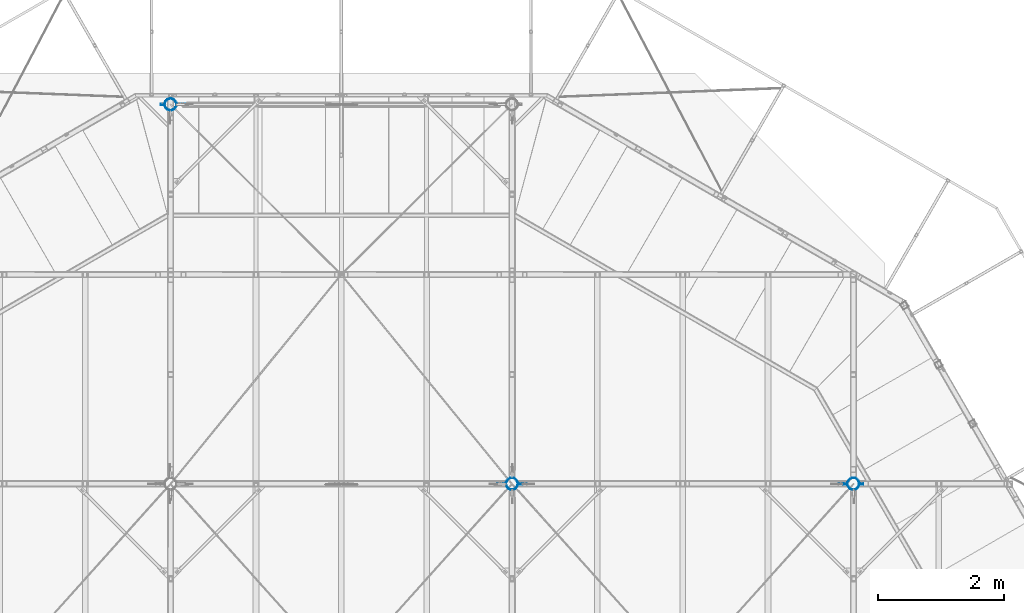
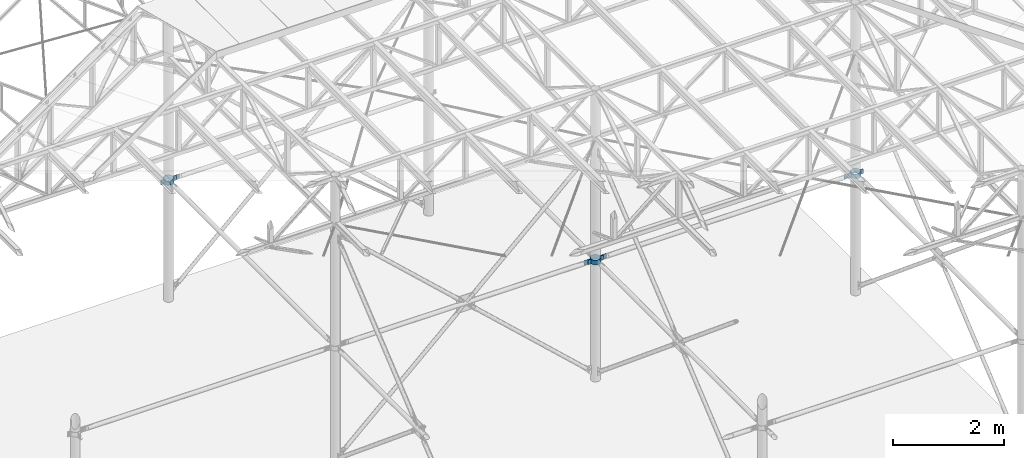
# One storey, part 130 of 132: 6 beams, 6 elements without a shape of their own.
"""IFC2X3 building model written with IfcOpenShell, lengths in millimetres."""

import ifcopenshell
import ifcopenshell.guid

model = None  # the IFC model being written
_history = None  # IfcOwnerHistory: only IFC2X3 demands one
_inside = {}  # id of a spatial element -> (the spatial element, [elements in it])
_under = {}  # id of a project, library or spatial element -> (it, [spatial elements below it])
_declared = {}  # id of a project -> (the project, [libraries it declares])
_typed = {}  # id of a type object -> (the type object, [elements of that type])
_made_of = {}  # id of a material, layer set ... -> (it, [elements and type objects made of it])


def new_model(schema):
    """Start an empty IFC model of exactly this schema.

    Asked for "IFC4X3", IfcOpenShell would pick the latest addendum, in which some entities
    have other attributes; the version numbers below select the first issue.
    IFC2X3 requires an IfcOwnerHistory on every rooted entity: one is made here for all.
    """
    global model, _history
    if schema == "IFC4X3":
        model = ifcopenshell.file(schema_version=(4, 3, 0, 0))
    else:
        model = ifcopenshell.file(schema=schema)
    _inside.clear()
    _under.clear()
    _declared.clear()
    _typed.clear()
    _made_of.clear()
    _history = None
    if model.schema == "IFC2X3":
        org = make("IfcOrganization", Name="unknown")
        user = make(
            "IfcPersonAndOrganization",
            ThePerson=make("IfcPerson", FamilyName="unknown"),
            TheOrganization=org,
        )
        app = make(
            "IfcApplication",
            ApplicationDeveloper=org,
            Version="unknown",
            ApplicationFullName="unknown",
            ApplicationIdentifier="unknown",
        )
        _history = make(
            "IfcOwnerHistory",
            OwningUser=user,
            OwningApplication=app,
            ChangeAction="ADDED",
            CreationDate=0,
        )
    return model


def make(cls, **values):
    """One entity of the class cls with the attributes given. An attribute that is None is left unset."""
    return model.create_entity(
        cls, **{name: value for name, value in values.items() if value is not None}
    )


def rooted(cls, **values):
    """An entity with a GlobalId (a new one), such as an element, a storey or a relation."""
    return make(cls, GlobalId=ifcopenshell.guid.new(), OwnerHistory=_history, **values)


def si_unit(unit_type, name, prefix=None):
    """IfcSIUnit, for example si_unit("LENGTHUNIT", "METRE", prefix="MILLI")."""
    return make("IfcSIUnit", UnitType=unit_type, Prefix=prefix, Name=name)


def assignment(units):
    """IfcUnitAssignment: the units of a project."""
    return None if units is None else make("IfcUnitAssignment", Units=units)


def point(xyz):
    """IfcCartesianPoint."""
    return None if xyz is None else make("IfcCartesianPoint", Coordinates=xyz)


def direction(xyz):
    """IfcDirection."""
    return None if xyz is None else make("IfcDirection", DirectionRatios=xyz)


def frame(location, z_axis=None, x_axis=None):
    """IfcAxis2Placement3D, a coordinate frame: its origin and axes. An axis left out is left unset."""
    return make(
        "IfcAxis2Placement3D",
        Location=point(location),
        Axis=direction(z_axis),
        RefDirection=direction(x_axis),
    )


def origin_with_axes():
    """The frame at (0, 0, 0) with the z axis (0, 0, 1) and the x axis (1, 0, 0) written out."""
    return frame((0.0, 0.0, 0.0), z_axis=(0.0, 0.0, 1.0), x_axis=(1.0, 0.0, 0.0))


def place(relative_to, where):
    """IfcLocalPlacement: puts the frame where relative to a parent placement (None: the world)."""
    return make(
        "IfcLocalPlacement", PlacementRelTo=relative_to, RelativePlacement=where
    )


def context(
    kind, dimensions, precision=None, world=None, true_north=None, identifier=None
):
    """IfcGeometricRepresentationContext, for example the 3D "Model" context."""
    return make(
        "IfcGeometricRepresentationContext",
        ContextIdentifier=identifier,
        ContextType=kind,
        CoordinateSpaceDimension=dimensions,
        Precision=precision,
        WorldCoordinateSystem=world,
        TrueNorth=true_north,
    )


def subcontext(parent, identifier, kind, view, scale=None):
    """IfcGeometricRepresentationSubContext, for example "Body" below "Model"."""
    return make(
        "IfcGeometricRepresentationSubContext",
        ContextIdentifier=identifier,
        ContextType=kind,
        ParentContext=parent,
        TargetScale=scale,
        TargetView=view,
    )


def project(units=None, contexts=None):
    """IfcProject with its units and contexts."""
    return rooted(
        "IfcProject",
        Name="project",
        RepresentationContexts=contexts,
        UnitsInContext=assignment(units),
    )


def spatial(cls, under=None, at=None, **own):
    """A site, building, storey or space (cls), placed at a placement, below another one or the project."""
    s = rooted(cls, ObjectPlacement=at, **own)
    if under is not None:
        _under.setdefault(under.id(), (under, []))[1].append(s)
    return s


def faces_of(points, faces, orient=None, outer=None):
    """IfcFace entities. A face is a list of loops; a loop is a list of indices into points, from 0.

    orient and outer hold one flag for each loop. By default every Orientation is true, the
    first loop of a face is its IfcFaceOuterBound and the others are IfcFaceBound.
    """
    made = []
    for i, loops in enumerate(faces):
        bounds = []
        for j, loop in enumerate(loops):
            is_outer = j == 0 if outer is None else outer[i][j]
            bounds.append(
                make(
                    "IfcFaceOuterBound" if is_outer else "IfcFaceBound",
                    Bound=make("IfcPolyLoop", Polygon=[points[k] for k in loop]),
                    Orientation=True if orient is None else orient[i][j],
                )
            )
        made.append(make("IfcFace", Bounds=bounds))
    return made


def faceted_brep(points, faces, orient=None, outer=None, voids=None):
    """IfcFacetedBrep: a solid bounded by flat faces; with voids (closed shells), ...WithVoids."""
    shared = [point(p) for p in points]
    hull = make("IfcClosedShell", CfsFaces=faces_of(shared, faces, orient, outer))
    if voids is None:
        return make("IfcFacetedBrep", Outer=hull)
    return make(
        "IfcFacetedBrepWithVoids",
        Outer=hull,
        Voids=[
            make(cls, CfsFaces=faces_of(shared, fs, o, b)) for cls, fs, o, b in voids
        ],
    )


def shape(context_of_items, identifier, shape_type, items):
    """IfcShapeRepresentation: the items that make up one representation, for example the "Body"."""
    return make(
        "IfcShapeRepresentation",
        ContextOfItems=context_of_items,
        RepresentationIdentifier=identifier,
        RepresentationType=shape_type,
        Items=items,
    )


def material(Name=None, Category=None):
    """IfcMaterial."""
    return make("IfcMaterial", Name=Name, Category=Category)


def made_of(thing, what):
    """Note that an element or type object is made of a material, layer set ...; save() writes the relation."""
    if what is not None:
        _made_of.setdefault(what.id(), (what, []))[1].append(thing)
    return thing


def type_object(cls, material=None, **own):
    """A type object (cls), such as IfcWallType, which elements share."""
    return made_of(rooted(cls, **own), material)


def element(
    cls,
    number,
    at=None,
    inside=None,
    cuts=None,
    type_object=None,
    material=None,
    context=None,
    identifier="Body",
    shape_type=None,
    held_by="IfcProductDefinitionShape",
    body=None,
    shapes=None,
    **own,
):
    """One element of the class cls, such as IfcWall. Its Tag is "e" and its number.

    at: its placement. inside: the storey or other place that contains it. cuts: it is an
    opening in that element (IfcRelVoidsElement). A single representation is given by context,
    identifier, shape_type and body (its items); several are given by shapes. held_by: the class
    of the entity that holds the representations. save() writes the other relations.
    """
    e = rooted(cls, Tag="e%d" % number, ObjectPlacement=at, **own)
    if body is not None:
        shapes = [shape(context, identifier, shape_type, body)]
    if shapes is not None:
        e.Representation = make(held_by, Representations=shapes)
    if inside is not None:
        _inside.setdefault(inside.id(), (inside, []))[1].append(e)
    if cuts is not None:
        rooted(
            "IfcRelVoidsElement", RelatingBuildingElement=cuts, RelatedOpeningElement=e
        )
    if type_object is not None:
        _typed.setdefault(type_object.id(), (type_object, []))[1].append(e)
    return made_of(e, material)


def aggregate(whole, parts):
    """IfcRelAggregates: a whole, such as a stair, and the parts it consists of."""
    return rooted("IfcRelAggregates", RelatingObject=whole, RelatedObjects=parts)


def save(model, path):
    """Write the relations noted so far, then the file.

    IfcRelAggregates (storeys below a building ...), IfcRelContainedInSpatialStructure (elements
    in a storey), IfcRelDefinesByType, IfcRelAssociatesMaterial and IfcRelDeclares: one each for
    every whole, place, type object, material and project.
    """
    for whole, parts in _under.values():
        aggregate(whole, parts)
    for where, things in _inside.values():
        rooted(
            "IfcRelContainedInSpatialStructure",
            RelatedElements=things,
            RelatingStructure=where,
        )
    for kind, things in _typed.values():
        rooted("IfcRelDefinesByType", RelatedObjects=things, RelatingType=kind)
    for what, things in _made_of.values():
        rooted("IfcRelAssociatesMaterial", RelatedObjects=things, RelatingMaterial=what)
    for by, libraries in _declared.values():
        rooted("IfcRelDeclares", RelatingContext=by, RelatedDefinitions=libraries)
    model.write(path)


model = new_model("IFC2X3")

# Units and contexts
model_context = context("Model", 3, precision=1e-05, world=origin_with_axes())
body_context = subcontext(model_context, "Body", "Model", "MODEL_VIEW")
ifc_project = project(units=[si_unit("LENGTHUNIT", "METRE", prefix="MILLI"), si_unit("AREAUNIT", "SQUARE_METRE"), si_unit("VOLUMEUNIT", "CUBIC_METRE"), si_unit("MASSUNIT", "GRAM", prefix="KILO"), si_unit("TIMEUNIT", "SECOND"), si_unit("PLANEANGLEUNIT", "RADIAN"), si_unit("SOLIDANGLEUNIT", "STERADIAN"), si_unit("THERMODYNAMICTEMPERATUREUNIT", "DEGREE_CELSIUS"), si_unit("LUMINOUSINTENSITYUNIT", "LUMEN")], contexts=[model_context])

# Site, building, storey
site_placement = place(None, origin_with_axes())
site = spatial("IfcSite", under=ifc_project, at=site_placement, Name="Budowa", CompositionType="ELEMENT")
building_placement = place(site_placement, origin_with_axes())
building = spatial("IfcBuilding", under=site, at=building_placement, Name="Undefined", CompositionType="ELEMENT")
storey_placement = place(building_placement, origin_with_axes())
storey = spatial("IfcBuildingStorey", under=building, at=storey_placement, Name="Undefined", CompositionType="ELEMENT", Elevation=0.0)

# Assembly, beam
assembly_1_placement = place(storey_placement, origin_with_axes())
assembly_1 = element("IfcElementAssembly", 1, at=assembly_1_placement, inside=storey, Name="Steel Assembly", AssemblyPlace="NOTDEFINED", PredefinedType="RIGID_FRAME")
ifc_material = material(Name="STEEL/S235JR")
beam_type = type_object("IfcBeamType", Name="BL8*100", PredefinedType="NOTDEFINED")
beam_1_placement = place(assembly_1_placement, frame((9658.13669408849, 24006.00000016, 10116.0003779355), z_axis=(0.0, 0.0, 1.0), x_axis=(-1.0, 0.0, 0.0)))
beam_1 = element("IfcBeam", 2, at=beam_1_placement, type_object=beam_type, material=ifc_material, Name="BEAM", ObjectType="BL8*100", context=body_context, shape_type="Brep", body=[
    faceted_brep([(0.0, 4.0, -50.0), (0.0, 4.0, 50.0), (129.968378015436, 4.0, 50.0), (129.968378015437, 4.00000000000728, -50.0), (0.0, -4.0, 50.0), (0.0, -4.0, -50.0), (129.968378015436, -4.0, -50.0), (129.968378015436, -4.0, 50.0), (137.356355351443, 2.19217357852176, 50.0), (137.356355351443, 2.19217357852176, -50.0), (133.662366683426, -4.90391321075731, -50.0), (133.662366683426, -4.90391321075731, 50.0), (136.521594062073, -7.41138806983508, -50.0), (136.521594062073, -7.41138806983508, 50.0), (143.074810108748, -2.8227761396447, 50.0), (143.074810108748, -2.8227761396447, -50.0), (137.89993680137, -10.955789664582, -50.0), (137.89993680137, -10.955789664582, 50.0), (145.831495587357, -9.91157932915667, 50.0), (145.831495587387, -9.91157932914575, -50.0), (146.782928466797, -17.1384239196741, 50.0), (146.782928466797, -17.1384239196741, -50.0), (138.988842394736, -19.2268423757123, -50.0), (138.988842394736, -19.2268423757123, 50.0), (155.714019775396, -38.7000007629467, 50.0), (155.714019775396, -38.7000007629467, -50.0), (148.726032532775, -42.7345153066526, -50.0), (148.726032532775, -42.7345153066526, 50.0), (169.921340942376, -57.2153472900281, 50.0), (169.921340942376, -57.2153472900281, -50.0), (164.215673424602, -62.9210138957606, -50.0), (164.215673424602, -62.9210138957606, 50.0), (188.436691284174, -71.4226760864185, 50.0), (188.436691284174, -71.4226760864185, -50.0), (184.402176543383, -78.4106633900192, -50.0), (184.402176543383, -78.4106633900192, 50.0), (209.998275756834, -80.3537673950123, 50.0), (209.998275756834, -80.3537673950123, -50.0), (207.909857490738, -88.1478534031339, -50.0), (207.909857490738, -88.1478534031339, 50.0), (233.136688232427, -83.4000015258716, 50.0), (233.136688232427, -83.4000015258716, -50.0), (233.136687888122, -91.4690333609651, -50.0), (233.136687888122, -91.4690333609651, 50.0), (256.275115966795, -80.3537673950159, 50.0), (256.275115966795, -80.3537673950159, -50.0), (258.363533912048, -88.1478535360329, -50.0), (258.363533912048, -88.1478535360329, 50.0), (277.836700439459, -71.4226760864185, 50.0), (277.836700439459, -71.4226760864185, -50.0), (281.87121518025, -78.4106633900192, -50.0), (281.87121518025, -78.4106633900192, 50.0), (296.352050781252, -57.2153472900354, 50.0), (296.352050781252, -57.2153472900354, -50.0), (302.057719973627, -62.9210126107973, -50.0), (302.057719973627, -62.9210126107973, 50.0), (310.559356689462, -38.7000007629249, 50.0), (310.559356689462, -38.7000007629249, -50.0), (317.5473417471, -42.7345172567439, -50.0), (317.5473417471, -42.7345172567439, 50.0), (319.490478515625, -17.138423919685, 50.0), (319.490478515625, -17.138423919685, -50.0), (327.284563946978, -19.2268472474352, -50.0), (327.284563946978, -19.2268472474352, 50.0), (320.4419114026, -9.91157923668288, 50.0), (320.441911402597, -9.91157923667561, -50.0), (328.37347018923, -10.9557895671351, -50.0), (328.37347018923, -10.9557895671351, 50.0), (323.198596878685, -2.82277604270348, 50.0), (323.198596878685, -2.82277604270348, -50.0), (329.75181292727, -7.41138797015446, -50.0), (329.75181292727, -7.41138797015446, 50.0), (332.611040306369, -4.90391310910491, -50.0), (332.611040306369, -4.90391310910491, 50.0), (328.917051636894, 2.19217367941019, 50.0), (328.917051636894, 2.19217367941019, -50.0), (336.305028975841, -3.99999989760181, -50.0), (336.305028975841, -3.99999989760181, 50.0), (336.30502897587, 4.00000010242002, 50.0), (336.305028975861, 4.0000001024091, -50.0), (391.273406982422, 4.0000001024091, 50.0), (391.273406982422, 4.0000001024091, -50.0), (391.273406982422, -3.9999998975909, 50.0), (391.273406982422, -3.9999998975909, -50.0)], [[[0, 1, 2, 3]], [[4, 5, 6, 7]], [[5, 4, 1, 0]], [[3, 2, 8, 9]], [[7, 6, 10, 11]], [[10, 12, 13, 11]], [[8, 14, 15, 9]], [[12, 16, 17, 13]], [[14, 18, 19, 15]], [[19, 18, 20, 21]], [[17, 16, 22, 23]], [[21, 20, 24, 25]], [[23, 22, 26, 27]], [[25, 24, 28, 29]], [[27, 26, 30, 31]], [[29, 28, 32, 33]], [[31, 30, 34, 35]], [[33, 32, 36, 37]], [[35, 34, 38, 39]], [[37, 36, 40, 41]], [[39, 38, 42, 43]], [[41, 40, 44, 45]], [[43, 42, 46, 47]], [[45, 44, 48, 49]], [[47, 46, 50, 51]], [[49, 48, 52, 53]], [[51, 50, 54, 55]], [[53, 52, 56, 57]], [[55, 54, 58, 59]], [[57, 56, 60, 61]], [[59, 58, 62, 63]], [[61, 60, 64, 65]], [[63, 62, 66, 67]], [[65, 64, 68, 69]], [[67, 66, 70, 71]], [[70, 72, 73, 71]], [[68, 74, 75, 69]], [[72, 76, 77, 73]], [[74, 78, 79, 75]], [[79, 78, 80, 81]], [[78, 74, 68, 64, 60, 56, 52, 48, 44, 40, 36, 32, 28, 24, 20, 18, 14, 8, 2, 1, 4, 7, 11, 13, 17, 23, 27, 31, 35, 39, 43, 47, 51, 55, 59, 63, 67, 71, 73, 77, 82, 80]], [[77, 76, 83, 82]], [[76, 72, 70, 66, 62, 58, 54, 50, 46, 42, 38, 34, 30, 26, 22, 16, 12, 10, 6, 5, 0, 3, 9, 15, 19, 21, 25, 29, 33, 37, 41, 45, 49, 53, 57, 61, 65, 69, 75, 79, 81, 83]], [[82, 83, 81, 80]]]),
])
aggregate(assembly_1, [beam_1])

assembly_2_placement = place(storey_placement, origin_with_axes())
assembly_2 = element("IfcElementAssembly", 3, at=assembly_2_placement, inside=storey, Name="Steel Assembly", AssemblyPlace="NOTDEFINED", PredefinedType="RIGID_FRAME")
beam_2_placement = place(assembly_2_placement, frame((9583.13669408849, 23993.9999999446, 10116.0003779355), z_axis=(0.0, 0.0, 1.0), x_axis=(-1.0, 0.0, 0.0)))
beam_2 = element("IfcBeam", 4, at=beam_2_placement, type_object=beam_type, material=ifc_material, Name="BEAM", ObjectType="BL8*100", context=body_context, shape_type="Brep", body=[
    faceted_brep([(0.0, 4.0, -50.0), (0.0, 4.0, 50.0), (54.9683780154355, 4.0, 50.0), (54.9683780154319, 4.00000000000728, -50.0), (0.0, -4.0, 50.0), (0.0, -4.0, -50.0), (54.9683780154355, -4.0, -50.0), (54.9683780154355, -4.0, 50.0), (58.6623666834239, 4.90391321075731, 50.0), (58.6623666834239, 4.90391321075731, -50.0), (62.3563553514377, -2.19217357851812, -50.0), (62.3563553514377, -2.19217357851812, 50.0), (68.0748101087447, 2.82277613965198, -50.0), (68.0748101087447, 2.82277613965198, 50.0), (61.5215940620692, 7.41138806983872, 50.0), (61.5215940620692, 7.41138806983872, -50.0), (70.8314955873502, 9.91157932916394, -50.0), (70.8314955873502, 9.91157932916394, 50.0), (62.8999368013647, 10.9557896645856, 50.0), (62.899936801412, 10.9557896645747, -50.0), (63.9888423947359, 19.2268423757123, 50.0), (63.9888423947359, 19.2268423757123, -50.0), (71.7829284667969, 17.1384239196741, -50.0), (71.7829284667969, 17.1384239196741, 50.0), (73.7260325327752, 42.7345153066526, 50.0), (73.7260325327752, 42.7345153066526, -50.0), (80.7140197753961, 38.7000007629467, -50.0), (80.7140197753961, 38.7000007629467, 50.0), (89.2156734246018, 62.9210138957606, 50.0), (89.2156734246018, 62.9210138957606, -50.0), (94.9213409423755, 57.2153472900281, -50.0), (94.9213409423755, 57.2153472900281, 50.0), (109.402176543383, 78.4106633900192, 50.0), (109.402176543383, 78.4106633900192, -50.0), (113.436691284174, 71.4226760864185, -50.0), (113.436691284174, 71.4226760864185, 50.0), (132.909857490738, 88.1478534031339, 50.0), (132.909857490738, 88.1478534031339, -50.0), (134.998275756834, 80.3537673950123, -50.0), (134.998275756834, 80.3537673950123, 50.0), (158.136687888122, 91.4690333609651, 50.0), (158.136687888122, 91.4690333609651, -50.0), (158.136688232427, 83.4000015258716, -50.0), (158.136688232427, 83.4000015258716, 50.0), (183.363533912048, 88.1478535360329, 50.0), (183.363533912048, 88.1478535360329, -50.0), (181.275115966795, 80.3537673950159, -50.0), (181.275115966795, 80.3537673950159, 50.0), (206.87121518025, 78.4106633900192, 50.0), (206.87121518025, 78.4106633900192, -50.0), (202.836700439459, 71.4226760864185, -50.0), (202.836700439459, 71.4226760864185, 50.0), (227.057719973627, 62.9210126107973, 50.0), (227.057719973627, 62.9210126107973, -50.0), (221.352050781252, 57.2153472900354, -50.0), (221.352050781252, 57.2153472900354, 50.0), (242.5473417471, 42.7345172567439, 50.0), (242.5473417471, 42.7345172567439, -50.0), (235.559356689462, 38.7000007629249, -50.0), (235.559356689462, 38.7000007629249, 50.0), (252.284563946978, 19.2268472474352, 50.0), (252.284563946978, 19.2268472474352, -50.0), (244.490478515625, 17.138423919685, -50.0), (244.490478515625, 17.138423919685, 50.0), (253.37347018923, 10.9557895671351, 50.0), (253.373470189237, 10.9557895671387, -50.0), (245.4419114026, 9.91157923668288, -50.0), (245.4419114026, 9.91157923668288, 50.0), (254.751812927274, 7.4113879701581, 50.0), (254.751812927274, 7.4113879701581, -50.0), (248.198596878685, 2.82277604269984, -50.0), (248.198596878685, 2.82277604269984, 50.0), (253.91705163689, -2.19217367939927, -50.0), (253.91705163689, -2.19217367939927, 50.0), (257.611040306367, 4.90391310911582, 50.0), (257.611040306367, 4.90391310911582, -50.0), (261.305028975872, -4.00000010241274, -50.0), (261.305028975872, -4.00000010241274, 50.0), (261.305028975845, 3.99999989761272, 50.0), (261.305028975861, 3.9999998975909, -50.0), (316.273406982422, 3.9999998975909, 50.0), (316.273406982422, 3.9999998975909, -50.0), (316.273406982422, -4.0000001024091, 50.0), (316.273406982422, -4.0000001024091, -50.0)], [[[0, 1, 2, 3]], [[4, 5, 6, 7]], [[5, 4, 1, 0]], [[3, 2, 8, 9]], [[7, 6, 10, 11]], [[10, 12, 13, 11]], [[8, 14, 15, 9]], [[12, 16, 17, 13]], [[14, 18, 19, 15]], [[19, 18, 20, 21]], [[17, 16, 22, 23]], [[21, 20, 24, 25]], [[23, 22, 26, 27]], [[25, 24, 28, 29]], [[27, 26, 30, 31]], [[29, 28, 32, 33]], [[31, 30, 34, 35]], [[33, 32, 36, 37]], [[35, 34, 38, 39]], [[37, 36, 40, 41]], [[39, 38, 42, 43]], [[41, 40, 44, 45]], [[43, 42, 46, 47]], [[45, 44, 48, 49]], [[47, 46, 50, 51]], [[49, 48, 52, 53]], [[51, 50, 54, 55]], [[53, 52, 56, 57]], [[55, 54, 58, 59]], [[57, 56, 60, 61]], [[59, 58, 62, 63]], [[61, 60, 64, 65]], [[63, 62, 66, 67]], [[65, 64, 68, 69]], [[67, 66, 70, 71]], [[70, 72, 73, 71]], [[68, 74, 75, 69]], [[72, 76, 77, 73]], [[74, 78, 79, 75]], [[79, 78, 80, 81]], [[78, 74, 68, 64, 60, 56, 52, 48, 44, 40, 36, 32, 28, 24, 20, 18, 14, 8, 2, 1, 4, 7, 11, 13, 17, 23, 27, 31, 35, 39, 43, 47, 51, 55, 59, 63, 67, 71, 73, 77, 82, 80]], [[77, 76, 83, 82]], [[76, 72, 70, 66, 62, 58, 54, 50, 46, 42, 38, 34, 30, 26, 22, 16, 12, 10, 6, 5, 0, 3, 9, 15, 19, 21, 25, 29, 33, 37, 41, 45, 49, 53, 57, 61, 65, 69, 75, 79, 81, 83]], [[82, 83, 81, 80]]]),
])
aggregate(assembly_2, [beam_2])

assembly_3_placement = place(storey_placement, origin_with_axes())
assembly_3 = element("IfcElementAssembly", 5, at=assembly_3_placement, inside=storey, Name="Steel Assembly", AssemblyPlace="NOTDEFINED", PredefinedType="RIGID_FRAME")
beam_3_placement = place(assembly_3_placement, frame((14591.863305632, 18006.00000016, 10116.0003779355), z_axis=(0.0, 0.0, 1.0), x_axis=(1.0, 0.0, 0.0)))
beam_3 = element("IfcBeam", 6, at=beam_3_placement, type_object=beam_type, material=ifc_material, Name="BEAM", ObjectType="BL8*100", context=body_context, shape_type="Brep", body=[
    faceted_brep([(0.0, 4.0, -50.0), (0.0, 4.0, 50.0), (129.968378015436, 4.0, 50.0), (129.968378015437, 4.00000000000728, -50.0), (0.0, -4.0, 50.0), (0.0, -4.0, -50.0), (129.968378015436, -4.0, -50.0), (129.968378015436, -4.0, 50.0), (133.662366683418, 4.90391321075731, 50.0), (133.662366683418, 4.90391321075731, -50.0), (137.356355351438, -2.19217357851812, -50.0), (137.356355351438, -2.19217357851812, 50.0), (143.074810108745, 2.82277613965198, -50.0), (143.074810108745, 2.82277613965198, 50.0), (136.521594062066, 7.41138806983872, 50.0), (136.521594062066, 7.41138806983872, -50.0), (145.83149558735, 9.91157932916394, -50.0), (145.83149558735, 9.91157932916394, 50.0), (137.899936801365, 10.9557896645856, 50.0), (137.899936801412, 10.9557896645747, -50.0), (138.988842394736, 19.2268423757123, 50.0), (138.988842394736, 19.2268423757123, -50.0), (146.782928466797, 17.1384239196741, -50.0), (146.782928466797, 17.1384239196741, 50.0), (148.726032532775, 42.7345153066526, 50.0), (148.726032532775, 42.7345153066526, -50.0), (155.714019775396, 38.7000007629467, -50.0), (155.714019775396, 38.7000007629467, 50.0), (164.215673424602, 62.9210138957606, 50.0), (164.215673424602, 62.9210138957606, -50.0), (169.921340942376, 57.2153472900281, -50.0), (169.921340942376, 57.2153472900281, 50.0), (184.402176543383, 78.4106633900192, 50.0), (184.402176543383, 78.4106633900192, -50.0), (188.436691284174, 71.4226760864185, -50.0), (188.436691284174, 71.4226760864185, 50.0), (207.909857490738, 88.1478534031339, 50.0), (207.909857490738, 88.1478534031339, -50.0), (209.998275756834, 80.3537673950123, -50.0), (209.998275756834, 80.3537673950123, 50.0), (233.136687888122, 91.4690333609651, 50.0), (233.136687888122, 91.4690333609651, -50.0), (233.136688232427, 83.4000015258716, -50.0), (233.136688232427, 83.4000015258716, 50.0), (258.363533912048, 88.1478535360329, 50.0), (258.363533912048, 88.1478535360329, -50.0), (256.275115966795, 80.3537673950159, -50.0), (256.275115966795, 80.3537673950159, 50.0), (281.87121518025, 78.4106633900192, 50.0), (281.87121518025, 78.4106633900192, -50.0), (277.836700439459, 71.4226760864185, -50.0), (277.836700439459, 71.4226760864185, 50.0), (302.057719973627, 62.9210126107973, 50.0), (302.057719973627, 62.9210126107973, -50.0), (296.352050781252, 57.2153472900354, -50.0), (296.352050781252, 57.2153472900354, 50.0), (317.5473417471, 42.7345172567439, 50.0), (317.5473417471, 42.7345172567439, -50.0), (310.559356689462, 38.7000007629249, -50.0), (310.559356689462, 38.7000007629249, 50.0), (327.284563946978, 19.2268472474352, 50.0), (327.284563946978, 19.2268472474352, -50.0), (319.490478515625, 17.138423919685, -50.0), (319.490478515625, 17.138423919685, 50.0), (328.37347018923, 10.9557895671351, 50.0), (328.373470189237, 10.9557895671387, -50.0), (320.4419114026, 9.91157923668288, -50.0), (320.4419114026, 9.91157923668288, 50.0), (329.751812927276, 7.41138797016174, 50.0), (329.751812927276, 7.41138797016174, -50.0), (323.19859687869, 2.82277604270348, -50.0), (323.19859687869, 2.82277604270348, 50.0), (328.917051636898, -2.19217367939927, -50.0), (328.917051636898, -2.19217367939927, 50.0), (332.611040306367, 4.90391310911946, 50.0), (332.611040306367, 4.90391310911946, -50.0), (336.305028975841, -3.99999989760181, -50.0), (336.305028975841, -3.99999989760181, 50.0), (336.30502897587, 4.00000010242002, 50.0), (336.305028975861, 4.0000001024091, -50.0), (466.273406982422, 4.0000001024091, 50.0), (466.273406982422, 4.0000001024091, -50.0), (466.273406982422, -3.9999998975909, 50.0), (466.273406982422, -3.9999998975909, -50.0)], [[[0, 1, 2, 3]], [[4, 5, 6, 7]], [[5, 4, 1, 0]], [[3, 2, 8, 9]], [[7, 6, 10, 11]], [[10, 12, 13, 11]], [[8, 14, 15, 9]], [[12, 16, 17, 13]], [[14, 18, 19, 15]], [[19, 18, 20, 21]], [[17, 16, 22, 23]], [[21, 20, 24, 25]], [[23, 22, 26, 27]], [[25, 24, 28, 29]], [[27, 26, 30, 31]], [[29, 28, 32, 33]], [[31, 30, 34, 35]], [[33, 32, 36, 37]], [[35, 34, 38, 39]], [[37, 36, 40, 41]], [[39, 38, 42, 43]], [[41, 40, 44, 45]], [[43, 42, 46, 47]], [[45, 44, 48, 49]], [[47, 46, 50, 51]], [[49, 48, 52, 53]], [[51, 50, 54, 55]], [[53, 52, 56, 57]], [[55, 54, 58, 59]], [[57, 56, 60, 61]], [[59, 58, 62, 63]], [[61, 60, 64, 65]], [[63, 62, 66, 67]], [[65, 64, 68, 69]], [[67, 66, 70, 71]], [[70, 72, 73, 71]], [[68, 74, 75, 69]], [[72, 76, 77, 73]], [[74, 78, 79, 75]], [[79, 78, 80, 81]], [[78, 74, 68, 64, 60, 56, 52, 48, 44, 40, 36, 32, 28, 24, 20, 18, 14, 8, 2, 1, 4, 7, 11, 13, 17, 23, 27, 31, 35, 39, 43, 47, 51, 55, 59, 63, 67, 71, 73, 77, 82, 80]], [[77, 76, 83, 82]], [[76, 72, 70, 66, 62, 58, 54, 50, 46, 42, 38, 34, 30, 26, 22, 16, 12, 10, 6, 5, 0, 3, 9, 15, 19, 21, 25, 29, 33, 37, 41, 45, 49, 53, 57, 61, 65, 69, 75, 79, 81, 83]], [[82, 83, 81, 80]]]),
])
aggregate(assembly_3, [beam_3])

assembly_4_placement = place(storey_placement, origin_with_axes())
assembly_4 = element("IfcElementAssembly", 7, at=assembly_4_placement, inside=storey, Name="Steel Assembly", AssemblyPlace="NOTDEFINED", PredefinedType="RIGID_FRAME")
beam_4_placement = place(assembly_4_placement, frame((14666.863305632, 17993.9999999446, 10116.0003779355), z_axis=(0.0, 0.0, 1.0), x_axis=(1.0, 0.0, 0.0)))
beam_4 = element("IfcBeam", 8, at=beam_4_placement, type_object=beam_type, material=ifc_material, Name="BEAM", ObjectType="BL8*100", context=body_context, shape_type="Brep", body=[
    faceted_brep([(0.0, 4.0, -50.0), (0.0, 4.0, 50.0), (54.9683780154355, 4.0, 50.0), (54.9683780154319, 4.00000000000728, -50.0), (0.0, -4.0, 50.0), (0.0, -4.0, -50.0), (54.9683780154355, -4.0, -50.0), (54.9683780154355, -4.0, 50.0), (62.3563553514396, 2.19217357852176, 50.0), (62.3563553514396, 2.19217357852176, -50.0), (58.6623666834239, -4.90391321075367, -50.0), (58.6623666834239, -4.90391321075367, 50.0), (61.521594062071, -7.41138806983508, -50.0), (61.521594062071, -7.41138806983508, 50.0), (68.0748101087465, -2.82277613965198, 50.0), (68.0748101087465, -2.82277613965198, -50.0), (62.8999368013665, -10.955789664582, -50.0), (62.8999368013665, -10.955789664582, 50.0), (70.831495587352, -9.91157932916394, 50.0), (70.8314955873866, -9.91157932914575, -50.0), (71.7829284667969, -17.1384239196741, 50.0), (71.7829284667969, -17.1384239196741, -50.0), (63.9888423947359, -19.2268423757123, -50.0), (63.9888423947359, -19.2268423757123, 50.0), (80.7140197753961, -38.7000007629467, 50.0), (80.7140197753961, -38.7000007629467, -50.0), (73.7260325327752, -42.7345153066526, -50.0), (73.7260325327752, -42.7345153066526, 50.0), (94.9213409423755, -57.2153472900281, 50.0), (94.9213409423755, -57.2153472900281, -50.0), (89.2156734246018, -62.9210138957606, -50.0), (89.2156734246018, -62.9210138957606, 50.0), (113.436691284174, -71.4226760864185, 50.0), (113.436691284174, -71.4226760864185, -50.0), (109.402176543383, -78.4106633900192, -50.0), (109.402176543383, -78.4106633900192, 50.0), (134.998275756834, -80.3537673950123, 50.0), (134.998275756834, -80.3537673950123, -50.0), (132.909857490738, -88.1478534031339, -50.0), (132.909857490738, -88.1478534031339, 50.0), (158.136688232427, -83.4000015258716, 50.0), (158.136688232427, -83.4000015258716, -50.0), (158.136687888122, -91.4690333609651, -50.0), (158.136687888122, -91.4690333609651, 50.0), (181.275115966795, -80.3537673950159, 50.0), (181.275115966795, -80.3537673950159, -50.0), (183.363533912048, -88.1478535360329, -50.0), (183.363533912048, -88.1478535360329, 50.0), (202.836700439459, -71.4226760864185, 50.0), (202.836700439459, -71.4226760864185, -50.0), (206.87121518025, -78.4106633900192, -50.0), (206.87121518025, -78.4106633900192, 50.0), (221.352050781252, -57.2153472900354, 50.0), (221.352050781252, -57.2153472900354, -50.0), (227.057719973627, -62.9210126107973, -50.0), (227.057719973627, -62.9210126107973, 50.0), (235.559356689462, -38.7000007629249, 50.0), (235.559356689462, -38.7000007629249, -50.0), (242.5473417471, -42.7345172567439, -50.0), (242.5473417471, -42.7345172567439, 50.0), (244.490478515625, -17.138423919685, 50.0), (244.490478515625, -17.138423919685, -50.0), (252.284563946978, -19.2268472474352, -50.0), (252.284563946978, -19.2268472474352, 50.0), (245.4419114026, -9.91157923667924, 50.0), (245.441911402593, -9.91157923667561, -50.0), (253.37347018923, -10.9557895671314, -50.0), (253.37347018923, -10.9557895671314, 50.0), (248.198596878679, -2.82277604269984, 50.0), (248.198596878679, -2.82277604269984, -50.0), (254.75181292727, -7.41138797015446, -50.0), (254.75181292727, -7.41138797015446, 50.0), (257.611040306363, -4.90391310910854, -50.0), (257.611040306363, -4.90391310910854, 50.0), (253.917051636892, 2.19217367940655, 50.0), (253.917051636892, 2.19217367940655, -50.0), (261.305028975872, -4.00000010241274, -50.0), (261.305028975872, -4.00000010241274, 50.0), (261.305028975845, 3.99999989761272, 50.0), (261.305028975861, 3.9999998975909, -50.0), (316.273406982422, 3.9999998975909, 50.0), (316.273406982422, 3.9999998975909, -50.0), (316.273406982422, -4.0000001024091, 50.0), (316.273406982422, -4.0000001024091, -50.0)], [[[0, 1, 2, 3]], [[4, 5, 6, 7]], [[5, 4, 1, 0]], [[3, 2, 8, 9]], [[7, 6, 10, 11]], [[10, 12, 13, 11]], [[8, 14, 15, 9]], [[12, 16, 17, 13]], [[14, 18, 19, 15]], [[19, 18, 20, 21]], [[17, 16, 22, 23]], [[21, 20, 24, 25]], [[23, 22, 26, 27]], [[25, 24, 28, 29]], [[27, 26, 30, 31]], [[29, 28, 32, 33]], [[31, 30, 34, 35]], [[33, 32, 36, 37]], [[35, 34, 38, 39]], [[37, 36, 40, 41]], [[39, 38, 42, 43]], [[41, 40, 44, 45]], [[43, 42, 46, 47]], [[45, 44, 48, 49]], [[47, 46, 50, 51]], [[49, 48, 52, 53]], [[51, 50, 54, 55]], [[53, 52, 56, 57]], [[55, 54, 58, 59]], [[57, 56, 60, 61]], [[59, 58, 62, 63]], [[61, 60, 64, 65]], [[63, 62, 66, 67]], [[65, 64, 68, 69]], [[67, 66, 70, 71]], [[70, 72, 73, 71]], [[68, 74, 75, 69]], [[72, 76, 77, 73]], [[74, 78, 79, 75]], [[79, 78, 80, 81]], [[78, 74, 68, 64, 60, 56, 52, 48, 44, 40, 36, 32, 28, 24, 20, 18, 14, 8, 2, 1, 4, 7, 11, 13, 17, 23, 27, 31, 35, 39, 43, 47, 51, 55, 59, 63, 67, 71, 73, 77, 82, 80]], [[77, 76, 83, 82]], [[76, 72, 70, 66, 62, 58, 54, 50, 46, 42, 38, 34, 30, 26, 22, 16, 12, 10, 6, 5, 0, 3, 9, 15, 19, 21, 25, 29, 33, 37, 41, 45, 49, 53, 57, 61, 65, 69, 75, 79, 81, 83]], [[82, 83, 81, 80]]]),
])
aggregate(assembly_4, [beam_4])

assembly_5_placement = place(storey_placement, origin_with_axes())
assembly_5 = element("IfcElementAssembly", 9, at=assembly_5_placement, inside=storey, Name="Steel Assembly", AssemblyPlace="NOTDEFINED", PredefinedType="RIGID_FRAME")
beam_5_placement = place(assembly_5_placement, frame((19991.8633056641, 18006.00000016, 10116.0003779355), z_axis=(0.0, 0.0, 1.0), x_axis=(1.0, 0.0, 0.0)))
beam_5 = element("IfcBeam", 10, at=beam_5_placement, type_object=beam_type, material=ifc_material, Name="BEAM", ObjectType="BL8*100", context=body_context, shape_type="Brep", body=[
    faceted_brep([(0.0, 4.0, -50.0), (0.0, 4.0, 50.0), (129.968378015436, 4.0, 50.0), (129.968378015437, 4.00000000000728, -50.0), (0.0, -4.0, 50.0), (0.0, -4.0, -50.0), (129.968378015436, -4.0, -50.0), (129.968378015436, -4.0, 50.0), (133.662366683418, 4.90391321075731, 50.0), (133.662366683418, 4.90391321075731, -50.0), (137.356355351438, -2.19217357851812, -50.0), (137.356355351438, -2.19217357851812, 50.0), (143.074810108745, 2.82277613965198, -50.0), (143.074810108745, 2.82277613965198, 50.0), (136.521594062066, 7.41138806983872, 50.0), (136.521594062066, 7.41138806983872, -50.0), (145.83149558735, 9.91157932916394, -50.0), (145.83149558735, 9.91157932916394, 50.0), (137.899936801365, 10.9557896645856, 50.0), (137.899936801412, 10.9557896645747, -50.0), (138.988842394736, 19.2268423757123, 50.0), (138.988842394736, 19.2268423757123, -50.0), (146.782928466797, 17.1384239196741, -50.0), (146.782928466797, 17.1384239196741, 50.0), (148.726032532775, 42.7345153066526, 50.0), (148.726032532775, 42.7345153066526, -50.0), (155.714019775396, 38.7000007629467, -50.0), (155.714019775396, 38.7000007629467, 50.0), (164.215673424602, 62.9210138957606, 50.0), (164.215673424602, 62.9210138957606, -50.0), (169.921340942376, 57.2153472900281, -50.0), (169.921340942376, 57.2153472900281, 50.0), (184.402176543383, 78.4106633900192, 50.0), (184.402176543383, 78.4106633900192, -50.0), (188.436691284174, 71.4226760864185, -50.0), (188.436691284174, 71.4226760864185, 50.0), (207.909857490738, 88.1478534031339, 50.0), (207.909857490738, 88.1478534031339, -50.0), (209.998275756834, 80.3537673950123, -50.0), (209.998275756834, 80.3537673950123, 50.0), (233.136687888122, 91.4690333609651, 50.0), (233.136687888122, 91.4690333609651, -50.0), (233.136688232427, 83.4000015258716, -50.0), (233.136688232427, 83.4000015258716, 50.0), (258.363533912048, 88.1478535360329, 50.0), (258.363533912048, 88.1478535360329, -50.0), (256.275115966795, 80.3537673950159, -50.0), (256.275115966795, 80.3537673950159, 50.0), (281.87121518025, 78.4106633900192, 50.0), (281.87121518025, 78.4106633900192, -50.0), (277.836700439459, 71.4226760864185, -50.0), (277.836700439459, 71.4226760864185, 50.0), (302.057719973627, 62.9210126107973, 50.0), (302.057719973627, 62.9210126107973, -50.0), (296.352050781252, 57.2153472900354, -50.0), (296.352050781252, 57.2153472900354, 50.0), (317.5473417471, 42.7345172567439, 50.0), (317.5473417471, 42.7345172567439, -50.0), (310.559356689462, 38.7000007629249, -50.0), (310.559356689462, 38.7000007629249, 50.0), (327.284563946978, 19.2268472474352, 50.0), (327.284563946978, 19.2268472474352, -50.0), (319.490478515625, 17.138423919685, -50.0), (319.490478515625, 17.138423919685, 50.0), (328.37347018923, 10.9557895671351, 50.0), (328.373470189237, 10.9557895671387, -50.0), (320.4419114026, 9.91157923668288, -50.0), (320.4419114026, 9.91157923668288, 50.0), (329.751812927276, 7.41138797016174, 50.0), (329.751812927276, 7.41138797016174, -50.0), (323.19859687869, 2.82277604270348, -50.0), (323.19859687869, 2.82277604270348, 50.0), (328.917051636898, -2.19217367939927, -50.0), (328.917051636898, -2.19217367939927, 50.0), (332.611040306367, 4.90391310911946, 50.0), (332.611040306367, 4.90391310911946, -50.0), (336.305028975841, -3.99999989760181, -50.0), (336.305028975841, -3.99999989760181, 50.0), (336.30502897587, 4.00000010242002, 50.0), (336.305028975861, 4.0000001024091, -50.0), (391.273406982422, 4.0000001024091, 50.0), (391.273406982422, 4.0000001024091, -50.0), (391.273406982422, -3.9999998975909, 50.0), (391.273406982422, -3.9999998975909, -50.0)], [[[0, 1, 2, 3]], [[4, 5, 6, 7]], [[5, 4, 1, 0]], [[3, 2, 8, 9]], [[7, 6, 10, 11]], [[10, 12, 13, 11]], [[8, 14, 15, 9]], [[12, 16, 17, 13]], [[14, 18, 19, 15]], [[19, 18, 20, 21]], [[17, 16, 22, 23]], [[21, 20, 24, 25]], [[23, 22, 26, 27]], [[25, 24, 28, 29]], [[27, 26, 30, 31]], [[29, 28, 32, 33]], [[31, 30, 34, 35]], [[33, 32, 36, 37]], [[35, 34, 38, 39]], [[37, 36, 40, 41]], [[39, 38, 42, 43]], [[41, 40, 44, 45]], [[43, 42, 46, 47]], [[45, 44, 48, 49]], [[47, 46, 50, 51]], [[49, 48, 52, 53]], [[51, 50, 54, 55]], [[53, 52, 56, 57]], [[55, 54, 58, 59]], [[57, 56, 60, 61]], [[59, 58, 62, 63]], [[61, 60, 64, 65]], [[63, 62, 66, 67]], [[65, 64, 68, 69]], [[67, 66, 70, 71]], [[70, 72, 73, 71]], [[68, 74, 75, 69]], [[72, 76, 77, 73]], [[74, 78, 79, 75]], [[79, 78, 80, 81]], [[78, 74, 68, 64, 60, 56, 52, 48, 44, 40, 36, 32, 28, 24, 20, 18, 14, 8, 2, 1, 4, 7, 11, 13, 17, 23, 27, 31, 35, 39, 43, 47, 51, 55, 59, 63, 67, 71, 73, 77, 82, 80]], [[77, 76, 83, 82]], [[76, 72, 70, 66, 62, 58, 54, 50, 46, 42, 38, 34, 30, 26, 22, 16, 12, 10, 6, 5, 0, 3, 9, 15, 19, 21, 25, 29, 33, 37, 41, 45, 49, 53, 57, 61, 65, 69, 75, 79, 81, 83]], [[82, 83, 81, 80]]]),
])
aggregate(assembly_5, [beam_5])

assembly_6_placement = place(storey_placement, origin_with_axes())
assembly_6 = element("IfcElementAssembly", 11, at=assembly_6_placement, inside=storey, Name="Steel Assembly", AssemblyPlace="NOTDEFINED", PredefinedType="RIGID_FRAME")
beam_6_placement = place(assembly_6_placement, frame((20066.8633056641, 17993.9999999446, 10116.0003779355), z_axis=(0.0, 0.0, 1.0), x_axis=(1.0, 0.0, 0.0)))
beam_6 = element("IfcBeam", 12, at=beam_6_placement, type_object=beam_type, material=ifc_material, Name="BEAM", ObjectType="BL8*100", context=body_context, shape_type="Brep", body=[
    faceted_brep([(0.0, 4.0, -50.0), (0.0, 4.0, 50.0), (54.9683780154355, 4.0, 50.0), (54.9683780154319, 4.00000000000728, -50.0), (0.0, -4.0, 50.0), (0.0, -4.0, -50.0), (54.9683780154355, -4.0, -50.0), (54.9683780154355, -4.0, 50.0), (62.3563553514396, 2.19217357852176, 50.0), (62.3563553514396, 2.19217357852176, -50.0), (58.6623666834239, -4.90391321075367, -50.0), (58.6623666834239, -4.90391321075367, 50.0), (61.521594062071, -7.41138806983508, -50.0), (61.521594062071, -7.41138806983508, 50.0), (68.0748101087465, -2.82277613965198, 50.0), (68.0748101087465, -2.82277613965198, -50.0), (62.8999368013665, -10.955789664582, -50.0), (62.8999368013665, -10.955789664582, 50.0), (70.831495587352, -9.91157932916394, 50.0), (70.8314955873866, -9.91157932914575, -50.0), (71.7829284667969, -17.1384239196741, 50.0), (71.7829284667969, -17.1384239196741, -50.0), (63.9888423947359, -19.2268423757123, -50.0), (63.9888423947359, -19.2268423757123, 50.0), (80.7140197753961, -38.7000007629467, 50.0), (80.7140197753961, -38.7000007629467, -50.0), (73.7260325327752, -42.7345153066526, -50.0), (73.7260325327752, -42.7345153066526, 50.0), (94.9213409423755, -57.2153472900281, 50.0), (94.9213409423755, -57.2153472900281, -50.0), (89.2156734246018, -62.9210138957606, -50.0), (89.2156734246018, -62.9210138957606, 50.0), (113.436691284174, -71.4226760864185, 50.0), (113.436691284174, -71.4226760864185, -50.0), (109.402176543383, -78.4106633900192, -50.0), (109.402176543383, -78.4106633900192, 50.0), (134.998275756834, -80.3537673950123, 50.0), (134.998275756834, -80.3537673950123, -50.0), (132.909857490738, -88.1478534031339, -50.0), (132.909857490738, -88.1478534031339, 50.0), (158.136688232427, -83.4000015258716, 50.0), (158.136688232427, -83.4000015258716, -50.0), (158.136687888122, -91.4690333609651, -50.0), (158.136687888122, -91.4690333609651, 50.0), (181.275115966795, -80.3537673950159, 50.0), (181.275115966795, -80.3537673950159, -50.0), (183.363533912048, -88.1478535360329, -50.0), (183.363533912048, -88.1478535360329, 50.0), (202.836700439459, -71.4226760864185, 50.0), (202.836700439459, -71.4226760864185, -50.0), (206.87121518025, -78.4106633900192, -50.0), (206.87121518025, -78.4106633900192, 50.0), (221.352050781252, -57.2153472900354, 50.0), (221.352050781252, -57.2153472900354, -50.0), (227.057719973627, -62.9210126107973, -50.0), (227.057719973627, -62.9210126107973, 50.0), (235.559356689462, -38.7000007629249, 50.0), (235.559356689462, -38.7000007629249, -50.0), (242.5473417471, -42.7345172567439, -50.0), (242.5473417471, -42.7345172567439, 50.0), (244.490478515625, -17.138423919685, 50.0), (244.490478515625, -17.138423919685, -50.0), (252.284563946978, -19.2268472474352, -50.0), (252.284563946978, -19.2268472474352, 50.0), (245.4419114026, -9.91157923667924, 50.0), (245.441911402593, -9.91157923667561, -50.0), (253.37347018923, -10.9557895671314, -50.0), (253.37347018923, -10.9557895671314, 50.0), (248.198596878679, -2.82277604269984, 50.0), (248.198596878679, -2.82277604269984, -50.0), (254.75181292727, -7.41138797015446, -50.0), (254.75181292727, -7.41138797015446, 50.0), (257.611040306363, -4.90391310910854, -50.0), (257.611040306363, -4.90391310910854, 50.0), (253.917051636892, 2.19217367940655, 50.0), (253.917051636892, 2.19217367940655, -50.0), (261.305028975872, -4.00000010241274, -50.0), (261.305028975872, -4.00000010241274, 50.0), (261.305028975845, 3.99999989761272, 50.0), (261.305028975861, 3.9999998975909, -50.0), (316.273406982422, 3.9999998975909, 50.0), (316.273406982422, 3.9999998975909, -50.0), (316.273406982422, -4.0000001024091, 50.0), (316.273406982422, -4.0000001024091, -50.0)], [[[0, 1, 2, 3]], [[4, 5, 6, 7]], [[5, 4, 1, 0]], [[3, 2, 8, 9]], [[7, 6, 10, 11]], [[10, 12, 13, 11]], [[8, 14, 15, 9]], [[12, 16, 17, 13]], [[14, 18, 19, 15]], [[19, 18, 20, 21]], [[17, 16, 22, 23]], [[21, 20, 24, 25]], [[23, 22, 26, 27]], [[25, 24, 28, 29]], [[27, 26, 30, 31]], [[29, 28, 32, 33]], [[31, 30, 34, 35]], [[33, 32, 36, 37]], [[35, 34, 38, 39]], [[37, 36, 40, 41]], [[39, 38, 42, 43]], [[41, 40, 44, 45]], [[43, 42, 46, 47]], [[45, 44, 48, 49]], [[47, 46, 50, 51]], [[49, 48, 52, 53]], [[51, 50, 54, 55]], [[53, 52, 56, 57]], [[55, 54, 58, 59]], [[57, 56, 60, 61]], [[59, 58, 62, 63]], [[61, 60, 64, 65]], [[63, 62, 66, 67]], [[65, 64, 68, 69]], [[67, 66, 70, 71]], [[70, 72, 73, 71]], [[68, 74, 75, 69]], [[72, 76, 77, 73]], [[74, 78, 79, 75]], [[79, 78, 80, 81]], [[78, 74, 68, 64, 60, 56, 52, 48, 44, 40, 36, 32, 28, 24, 20, 18, 14, 8, 2, 1, 4, 7, 11, 13, 17, 23, 27, 31, 35, 39, 43, 47, 51, 55, 59, 63, 67, 71, 73, 77, 82, 80]], [[77, 76, 83, 82]], [[76, 72, 70, 66, 62, 58, 54, 50, 46, 42, 38, 34, 30, 26, 22, 16, 12, 10, 6, 5, 0, 3, 9, 15, 19, 21, 25, 29, 33, 37, 41, 45, 49, 53, 57, 61, 65, 69, 75, 79, 81, 83]], [[82, 83, 81, 80]]]),
])
aggregate(assembly_6, [beam_6])

save(model, "model.ifc")
